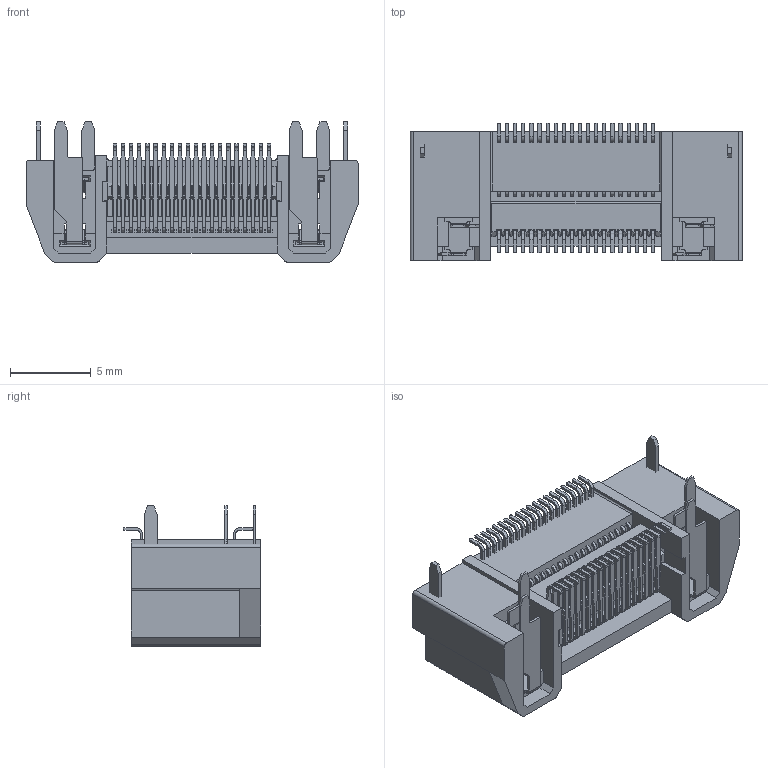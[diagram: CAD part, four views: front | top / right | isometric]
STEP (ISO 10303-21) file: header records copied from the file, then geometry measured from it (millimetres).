
FILE_DESCRIPTION (( 'STEP AP203' ), '1' );
FILE_NAME ('2631-40FG03DRNT-1121031.STEP', '2023-10-31T09:27:14', ( '' ), ( '' ), 'SwSTEP 2.0', 'SolidWorks 2019', '' );
FILE_SCHEMA (( 'CONFIG_CONTROL_DESIGN' ));
Length unit declared in the file: millimetre
Products named in the file (9): CGAD201-A001-Terminal.stp; CGAD201-A001-Terminal2.stp; 2631-40FG03DRNT-1121031; CGAD201-A001-Terminal4.stp; CGAD201-A00120-HSG.stp; CGAD201-A001-Ground.stp; CGAD201-A001-Terminal3.stp; CGAD201-20A001.stp; CGAD201-A00120-HSG2.stp
Assembly tree (49 placements, depth 3):
  2631-40FG03DRNT-1121031
    CGAD201-20A001.stp
      CGAD201-A001-Terminal4.stp  x20
      CGAD201-A001-Terminal3.stp  x20
      CGAD201-A001-Terminal.stp  x2
      CGAD201-A001-Terminal2.stp  x2
      CGAD201-A001-Ground.stp  x2
      CGAD201-A00120-HSG2.stp
      CGAD201-A00120-HSG.stp
Bounding box: 20.5 x 8.5 x 8.65 mm (x, y, z)
Volume: 549.7 mm3; surface area: 1846.5 mm2
Topology: 48 solids, 48 shells, 3045 faces, 8460 edges, 5546 vertices
Faces by surface type: plane 2411, cylinder 634
Entity records: 27471 total; most frequent: CARTESIAN_POINT 4618, ORIENTED_EDGE 4420, DIRECTION 4058, EDGE_CURVE 2210, VECTOR 2062, LINE 2062, VERTEX_POINT 1430, AXIS2_PLACEMENT_3D 998
